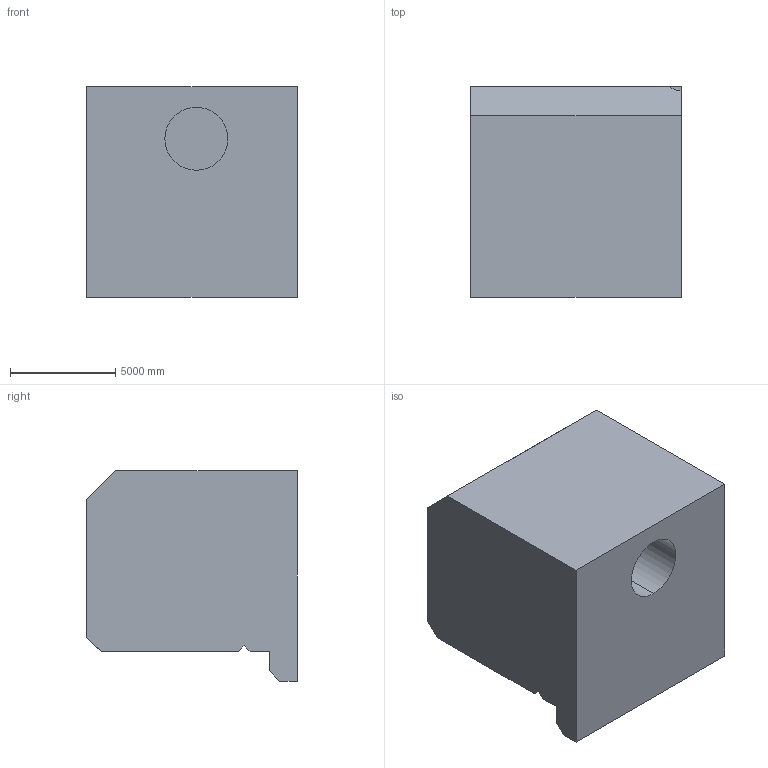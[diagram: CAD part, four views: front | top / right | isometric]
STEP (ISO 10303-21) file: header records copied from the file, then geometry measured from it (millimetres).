
FILE_DESCRIPTION (( 'STEP AP203' ), '1' );
FILE_NAME ('336.STEP', '2022-09-07T12:58:23', ( 'user' ), ( '' ), 'SwSTEP 2.0', 'SolidWorks 2021', '' );
FILE_SCHEMA (( 'CONFIG_CONTROL_DESIGN' ));
Length unit declared in the file: centimetre
Products named in the file (1): 336
Bounding box: 10000 x 10000 x 10000 mm (x, y, z)
Volume: 738741036140.3 mm3; surface area: 628325593.7 mm2
Topology: 1 solids, 1 shells, 28 faces, 75 edges, 50 vertices
Faces by surface type: plane 22, cylinder 6
Entity records: 948 total; most frequent: CARTESIAN_POINT 160, ORIENTED_EDGE 150, DIRECTION 143, EDGE_CURVE 75, VECTOR 61, LINE 61, VERTEX_POINT 50, AXIS2_PLACEMENT_3D 41
